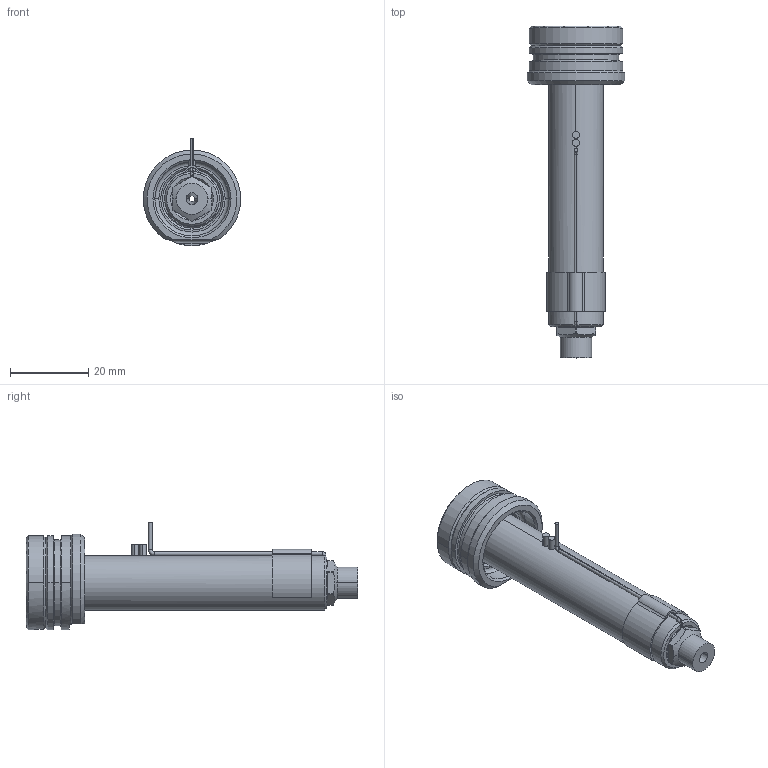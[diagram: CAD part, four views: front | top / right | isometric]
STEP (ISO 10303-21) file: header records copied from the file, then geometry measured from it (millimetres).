
FILE_DESCRIPTION((''),'2;1');
FILE_NAME('EO04_SG_SG_070_SW','2024-02-19T12:11:17',('sundharh'),(''),'CREO PARAMETRIC BY PTC INC, 2023154','CREO PARAMETRIC BY PTC INC, 2023154','');
FILE_SCHEMA(('CONFIG_CONTROL_DESIGN'));
Length unit declared in the file: millimetre
Products named in the file (1): EO04_SG_SG_070_SW
Bounding box: 24.99 x 85 x 27.5 mm (x, y, z)
Volume: 15101.5 mm3; surface area: 7738.1 mm2
Topology: 2 solids, 2 shells, 182 faces, 461 edges, 277 vertices
Faces by surface type: cylinder 67, plane 45, cone 34, torus 22, bspline 11, sphere 3
Entity records: 6369 total; most frequent: CARTESIAN_POINT 1974, DIRECTION 952, ORIENTED_EDGE 906, EDGE_CURVE 453, AXIS2_PLACEMENT_3D 396, VERTEX_POINT 277, CIRCLE 225, EDGE_LOOP 196
